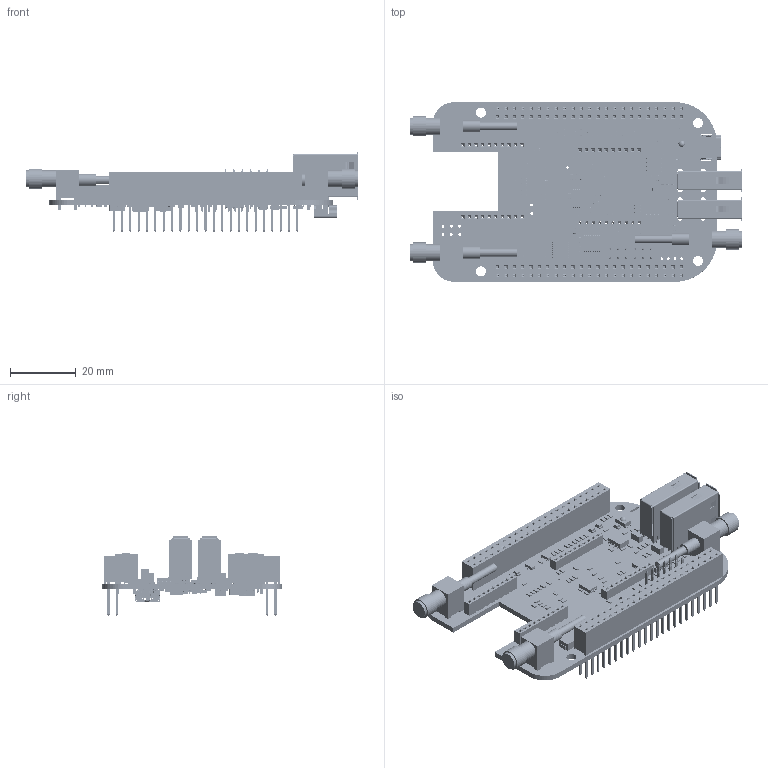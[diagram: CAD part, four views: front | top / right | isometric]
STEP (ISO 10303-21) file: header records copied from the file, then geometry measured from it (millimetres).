
FILE_DESCRIPTION(('Open CASCADE Model'),'2;1');
FILE_NAME('Open CASCADE Shape Model','2016-06-14T15:59:38',('Author'),( 'Open CASCADE'),'Open CASCADE STEP processor 6.5','Open CASCADE 6.5' ,'Unknown');
FILE_SCHEMA(('AUTOMOTIVE_DESIGN { 1 0 10303 214 1 1 1 1 }'));
Length unit declared in the file: millimetre
Products named in the file (329): PCB; Board; R63; RES0603; Q1; DBZ0003A; BODY_MF03A; LEAD_MF03A; ANT3; 1158342000; Extruded; 1032203928; Cylinder; 1158336880; 1158337392; 1032204288; 1032203808; 1032203688; C53; U8; FAN8303_BODYpin; 1007374192; 1032192048; U11; 0673298020; 1007374320; U10; BBBC2; 1007371632; R47; R46; R45; R44; R43; R42; R41; R39; R30; R28; R25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
Assembly tree (711 placements, depth 4):
  PCB
    Board
    R63
      RES0603
    Q1
      DBZ0003A
        BODY_MF03A
        LEAD_MF03A  x3
    ANT3
      1158342000
        Extruded
      1032203928
        Cylinder
      1158336880  x4
        Extruded
      1158337392  x4
        Extruded
      1032204288
        Cylinder
      1032203808
        Cylinder
      1032203688
        Cylinder
    C53
      RES0603
    U8
      FAN8303_BODYpin  x8
        Extruded
      1007374192
        Extruded
      1032192048
        Cylinder
    U11
      0673298020  x8
        Extruded
      1007374320
        Extruded
    U10
      BBBC2  x16
        Extruded
      1007371632
        Extruded
    R47
      RES0603
    R46
      RES0603
    R45
      RES0603
    R44
      RES0603
    R43
      RES0603
    R42
      RES0603
    R41
      RES0603
    R39
      RES0603
    R30
      RES0603
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Bounding box: 100.99 x 54.61 x 24.44 mm (x, y, z)
Volume: 12600.2 mm3; surface area: 34144.8 mm2
Topology: 796 solids, 4680 shells, 15961 faces, 48125 edges, 37689 vertices
Faces by surface type: plane 8896, bspline 4654, cylinder 2122, revolution 276, cone 12, sphere 1
Full cylindrical faces by diameter (mm): 0.762 x1, 0.8 x22, 0.813 x24, 0.889 x8, 0.9 x8, 0.965 x12, 1.016 x92, 1.651 x20, 2.413 x3, 3.048 x4, 3.683 x3, 5.283 x3, 6.248 x3
Entity records: 353796 total; most frequent: CARTESIAN_POINT 95226, DIRECTION 32385, LINE 22628, VECTOR 22628, ORIENTED_EDGE 21672, PCURVE 21672, DEFINITIONAL_REPRESENTATION 21672, EDGE_CURVE 15828
